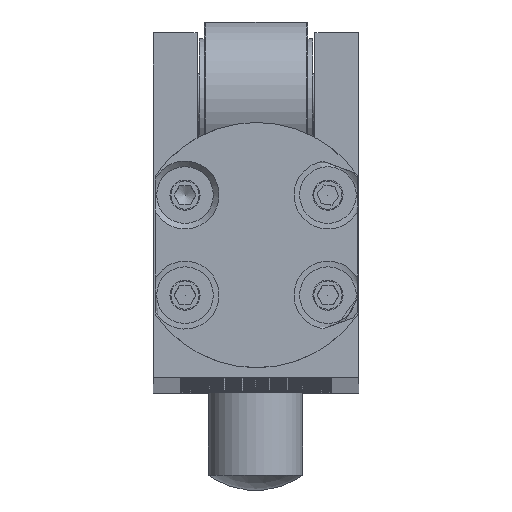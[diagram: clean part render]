
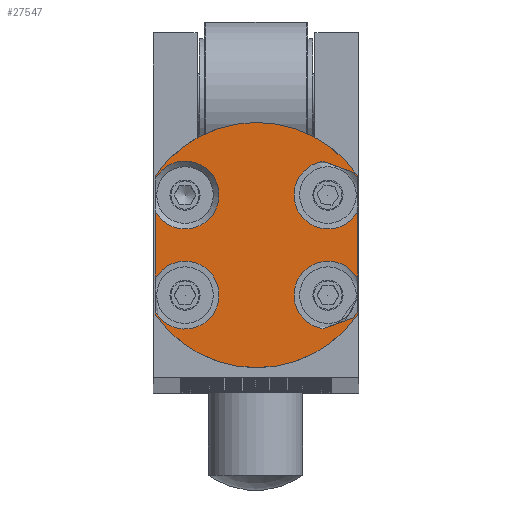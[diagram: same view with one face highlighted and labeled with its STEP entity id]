
A CAD part, top view. The second image highlights one B-rep face of the part: STEP entity #27547.
In plain terms, the highlighted planar face has unit normal (0, 0, 1).
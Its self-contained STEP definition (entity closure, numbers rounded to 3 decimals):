
#2350=LINE('',#50687,#3348);
#2351=LINE('',#50690,#3349);
#2352=LINE('',#50694,#3350);
#2353=LINE('',#50698,#3351);
#2354=LINE('',#50702,#3352);
#2355=LINE('',#50706,#3353);
#2356=LINE('',#50710,#3354);
#2357=LINE('',#50713,#3355);
#3348=VECTOR('',#38844,10.);
#3349=VECTOR('',#38847,10.);
#3350=VECTOR('',#38850,10.);
#3351=VECTOR('',#38853,10.);
#3352=VECTOR('',#38856,10.);
#3353=VECTOR('',#38859,10.);
#3354=VECTOR('',#38862,10.);
#3355=VECTOR('',#38865,10.);
#3832=PLANE('',#30974);
#4953=FACE_OUTER_BOUND('',#6608,.T.);
#6608=EDGE_LOOP('',(#22863,#22864,#22865,#22866,#22867,#22868,#22869,#22870,
#22871,#22872,#22873,#22874,#22875,#22876,#22877,#22878));
#9027=CIRCLE('',#30968,3.6);
#9030=CIRCLE('',#30971,3.6);
#9031=CIRCLE('',#30975,3.6);
#9032=CIRCLE('',#30976,3.6);
#9033=CIRCLE('',#30977,13.);
#9034=CIRCLE('',#30978,3.6);
#9035=CIRCLE('',#30979,3.6);
#9036=CIRCLE('',#30980,13.);
#11927=VERTEX_POINT('',#50663);
#11928=VERTEX_POINT('',#50664);
#11929=VERTEX_POINT('',#50668);
#11933=VERTEX_POINT('',#50679);
#11934=VERTEX_POINT('',#50689);
#11935=VERTEX_POINT('',#50691);
#11936=VERTEX_POINT('',#50693);
#11937=VERTEX_POINT('',#50695);
#11938=VERTEX_POINT('',#50697);
#11939=VERTEX_POINT('',#50699);
#11940=VERTEX_POINT('',#50701);
#11941=VERTEX_POINT('',#50703);
#11942=VERTEX_POINT('',#50705);
#11943=VERTEX_POINT('',#50707);
#11944=VERTEX_POINT('',#50709);
#11945=VERTEX_POINT('',#50711);
#15742=EDGE_CURVE('',#11929,#11927,#9027,.T.);
#15748=EDGE_CURVE('',#11928,#11933,#9030,.T.);
#15750=EDGE_CURVE('',#11933,#11929,#2350,.T.);
#15751=EDGE_CURVE('',#11927,#11934,#2351,.T.);
#15752=EDGE_CURVE('',#11934,#11935,#9031,.T.);
#15753=EDGE_CURVE('',#11935,#11936,#2352,.T.);
#15754=EDGE_CURVE('',#11936,#11937,#9032,.T.);
#15755=EDGE_CURVE('',#11937,#11938,#2353,.T.);
#15756=EDGE_CURVE('',#11939,#11938,#9033,.T.);
#15757=EDGE_CURVE('',#11939,#11940,#2354,.T.);
#15758=EDGE_CURVE('',#11940,#11941,#9034,.T.);
#15759=EDGE_CURVE('',#11941,#11942,#2355,.T.);
#15760=EDGE_CURVE('',#11942,#11943,#9035,.T.);
#15761=EDGE_CURVE('',#11943,#11944,#2356,.T.);
#15762=EDGE_CURVE('',#11945,#11944,#9036,.T.);
#15763=EDGE_CURVE('',#11945,#11928,#2357,.T.);
#22863=ORIENTED_EDGE('',*,*,#15748,.T.);
#22864=ORIENTED_EDGE('',*,*,#15750,.T.);
#22865=ORIENTED_EDGE('',*,*,#15742,.T.);
#22866=ORIENTED_EDGE('',*,*,#15751,.T.);
#22867=ORIENTED_EDGE('',*,*,#15752,.T.);
#22868=ORIENTED_EDGE('',*,*,#15753,.T.);
#22869=ORIENTED_EDGE('',*,*,#15754,.T.);
#22870=ORIENTED_EDGE('',*,*,#15755,.T.);
#22871=ORIENTED_EDGE('',*,*,#15756,.F.);
#22872=ORIENTED_EDGE('',*,*,#15757,.T.);
#22873=ORIENTED_EDGE('',*,*,#15758,.T.);
#22874=ORIENTED_EDGE('',*,*,#15759,.T.);
#22875=ORIENTED_EDGE('',*,*,#15760,.T.);
#22876=ORIENTED_EDGE('',*,*,#15761,.T.);
#22877=ORIENTED_EDGE('',*,*,#15762,.F.);
#22878=ORIENTED_EDGE('',*,*,#15763,.T.);
#27547=ADVANCED_FACE('',(#4953),#3832,.T.);
#30968=AXIS2_PLACEMENT_3D('',#50669,#38830,#38831);
#30971=AXIS2_PLACEMENT_3D('',#50683,#38837,#38838);
#30974=AXIS2_PLACEMENT_3D('',#50688,#38845,#38846);
#30975=AXIS2_PLACEMENT_3D('',#50692,#38848,#38849);
#30976=AXIS2_PLACEMENT_3D('',#50696,#38851,#38852);
#30977=AXIS2_PLACEMENT_3D('',#50700,#38854,#38855);
#30978=AXIS2_PLACEMENT_3D('',#50704,#38857,#38858);
#30979=AXIS2_PLACEMENT_3D('',#50708,#38860,#38861);
#30980=AXIS2_PLACEMENT_3D('',#50712,#38863,#38864);
#38830=DIRECTION('center_axis',(0.,0.,
-1.));
#38831=DIRECTION('ref_axis',(-0.342,0.94,0.));
#38837=DIRECTION('center_axis',(0.,0.,
-1.));
#38838=DIRECTION('ref_axis',(-0.342,0.94,0.));
#38844=DIRECTION('',(-0.94,-0.342,0.));
#38845=DIRECTION('center_axis',(0.,0.,
1.));
#38846=DIRECTION('ref_axis',(1.,0.,0.));
#38847=DIRECTION('',(0.,1.,0.));
#38848=DIRECTION('center_axis',(0.,0.,
-1.));
#38849=DIRECTION('ref_axis',(-0.342,-0.94,0.));
#38850=DIRECTION('',(0.94,-0.342,0.));
#38851=DIRECTION('center_axis',(0.,0.,
-1.));
#38852=DIRECTION('ref_axis',(-0.342,-0.94,0.));
#38853=DIRECTION('',(0.,1.,0.));
#38854=DIRECTION('center_axis',(0.,0.,
-1.));
#38855=DIRECTION('ref_axis',(0.,1.,0.));
#38856=DIRECTION('',(0.,-1.,0.));
#38857=DIRECTION('center_axis',(0.,0.,
-1.));
#38858=DIRECTION('ref_axis',(1.,0.,0.));
#38859=DIRECTION('',(0.,-1.,0.));
#38860=DIRECTION('center_axis',(0.,0.,
-1.));
#38861=DIRECTION('ref_axis',(1.,0.,0.));
#38862=DIRECTION('',(0.,-1.,0.));
#38863=DIRECTION('center_axis',(0.,0.,
-1.));
#38864=DIRECTION('ref_axis',(0.,1.,0.));
#38865=DIRECTION('',(0.,1.,0.));
#50663=CARTESIAN_POINT('',(10.8,-7.855,486.));
#50664=CARTESIAN_POINT('',(10.8,-11.256,486.));
#50668=CARTESIAN_POINT('',(7.114,-13.119,486.));
#50669=CARTESIAN_POINT('Origin',(7.627,-9.556,486.));
#50679=CARTESIAN_POINT('',(10.311,-11.955,486.));
#50683=CARTESIAN_POINT('Origin',(7.627,-9.556,486.));
#50687=CARTESIAN_POINT('',(8.206,-12.721,486.));
#50688=CARTESIAN_POINT('Origin',(0.05,2.25,486.));
#50689=CARTESIAN_POINT('',(10.8,-0.645,486.));
#50690=CARTESIAN_POINT('',(10.8,-4.655,486.));
#50691=CARTESIAN_POINT('',(7.114,4.619,486.));
#50692=CARTESIAN_POINT('Origin',(7.627,1.056,486.));
#50693=CARTESIAN_POINT('',(10.311,3.455,486.));
#50694=CARTESIAN_POINT('',(6.117,4.982,486.));
#50695=CARTESIAN_POINT('',(10.8,2.756,486.));
#50696=CARTESIAN_POINT('Origin',(7.627,1.056,486.));
#50697=CARTESIAN_POINT('',(10.8,3.06,486.));
#50698=CARTESIAN_POINT('',(10.8,-4.655,486.));
#50699=CARTESIAN_POINT('',(-10.7,3.06,486.));
#50700=CARTESIAN_POINT('Origin',(0.05,-4.25,486.));
#50701=CARTESIAN_POINT('',(-10.7,2.756,486.));
#50702=CARTESIAN_POINT('',(-10.7,2.655,486.));
#50703=CARTESIAN_POINT('',(-10.7,-0.645,486.));
#50704=CARTESIAN_POINT('Origin',(-7.527,1.056,486.));
#50705=CARTESIAN_POINT('',(-10.7,-7.855,486.));
#50706=CARTESIAN_POINT('',(-10.7,2.655,486.));
#50707=CARTESIAN_POINT('',(-10.7,-11.256,486.));
#50708=CARTESIAN_POINT('Origin',(-7.527,-9.556,486.));
#50709=CARTESIAN_POINT('',(-10.7,-11.56,486.));
#50710=CARTESIAN_POINT('',(-10.7,2.655,486.));
#50711=CARTESIAN_POINT('',(10.8,-11.56,486.));
#50712=CARTESIAN_POINT('Origin',(0.05,-4.25,486.));
#50713=CARTESIAN_POINT('',(10.8,-4.655,486.));
